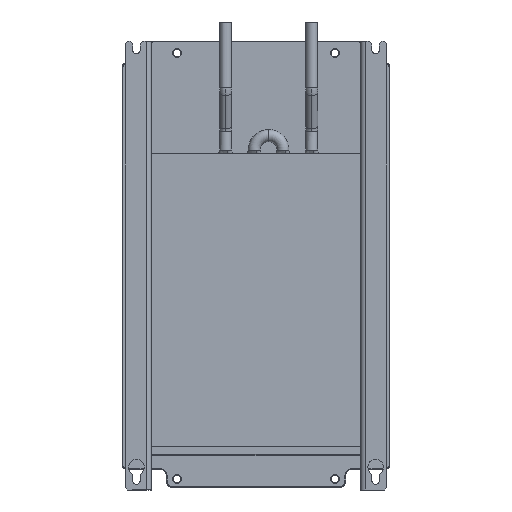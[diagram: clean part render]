
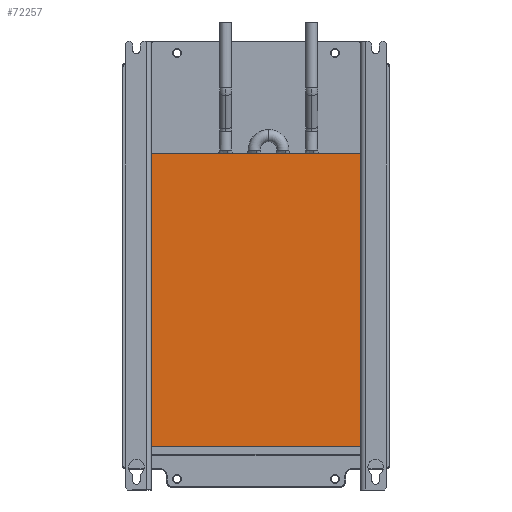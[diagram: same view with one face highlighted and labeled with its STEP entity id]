
A CAD part, front view. The second image highlights one B-rep face of the part: STEP entity #72257.
In plain terms, the highlighted planar face has unit normal (0, -1, 0).
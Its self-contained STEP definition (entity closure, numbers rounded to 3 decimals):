
#4026 = DIRECTION ( 'NONE',  ( 1., 0., 0. ) ) ;
#8163 = CARTESIAN_POINT ( 'NONE',  ( 93.5, -21., 94. ) ) ;
#13061 = CARTESIAN_POINT ( 'NONE',  ( -85.5, -21., 280.507 ) ) ;
#18070 = LINE ( 'NONE', #84999, #70283 ) ;
#22837 = LINE ( 'NONE', #13061, #101377 ) ;
#23434 = DIRECTION ( 'NONE',  ( -1., 0., 0. ) ) ;
#23931 = VERTEX_POINT ( 'NONE', #53969 ) ;
#30169 = PLANE ( 'NONE',  #96541 ) ;
#33307 = VERTEX_POINT ( 'NONE', #64289 ) ;
#33425 = EDGE_CURVE ( 'NONE', #23931, #83368, #75121, .T. ) ;
#41949 = DIRECTION ( 'NONE',  ( 0., 0., -1. ) ) ;
#44344 = CARTESIAN_POINT ( 'NONE',  ( 89.5, -21., -151. ) ) ;
#45973 = CARTESIAN_POINT ( 'NONE',  ( 93.5, -21., -151. ) ) ;
#50638 = CARTESIAN_POINT ( 'NONE',  ( 89.5, -21., 280.507 ) ) ;
#50663 = CARTESIAN_POINT ( 'NONE',  ( -85.5, -21., 94. ) ) ;
#53969 = CARTESIAN_POINT ( 'NONE',  ( 89.5, -21., 94. ) ) ;
#56015 = DIRECTION ( 'NONE',  ( 0., 0., -1. ) ) ;
#64289 = CARTESIAN_POINT ( 'NONE',  ( -85.5, -21., -151. ) ) ;
#66239 = ORIENTED_EDGE ( 'NONE', *, *, #102432, .T. ) ;
#66370 = EDGE_LOOP ( 'NONE', ( #68992, #66239, #83895, #103025 ) ) ;
#68992 = ORIENTED_EDGE ( 'NONE', *, *, #85063, .T. ) ;
#70283 = VECTOR ( 'NONE', #77379, 1000. ) ;
#72257 = ADVANCED_FACE ( 'NONE', ( #104742 ), #30169, .F. ) ;
#75121 = LINE ( 'NONE', #50638, #78119 ) ;
#77379 = DIRECTION ( 'NONE',  ( -1., 0., 0. ) ) ;
#78119 = VECTOR ( 'NONE', #41949, 1000. ) ;
#82717 = LINE ( 'NONE', #8163, #104016 ) ;
#83368 = VERTEX_POINT ( 'NONE', #44344 ) ;
#83895 = ORIENTED_EDGE ( 'NONE', *, *, #93560, .F. ) ;
#84999 = CARTESIAN_POINT ( 'NONE',  ( 93.5, -21., -151. ) ) ;
#85063 = EDGE_CURVE ( 'NONE', #23931, #86916, #82717, .T. ) ;
#86916 = VERTEX_POINT ( 'NONE', #50663 ) ;
#93560 = EDGE_CURVE ( 'NONE', #83368, #33307, #18070, .T. ) ;
#96541 = AXIS2_PLACEMENT_3D ( 'NONE', #45973, #103669, #4026 ) ;
#101377 = VECTOR ( 'NONE', #56015, 1000. ) ;
#102432 = EDGE_CURVE ( 'NONE', #86916, #33307, #22837, .T. ) ;
#103025 = ORIENTED_EDGE ( 'NONE', *, *, #33425, .F. ) ;
#103669 = DIRECTION ( 'NONE',  ( 0., 1., 0. ) ) ;
#104016 = VECTOR ( 'NONE', #23434, 1000. ) ;
#104742 = FACE_OUTER_BOUND ( 'NONE', #66370, .T. ) ;
